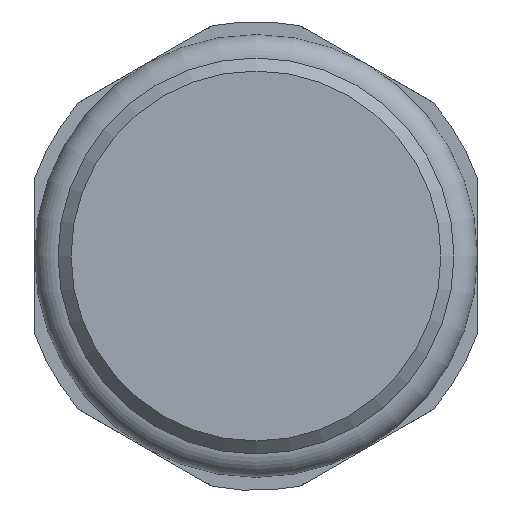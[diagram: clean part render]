
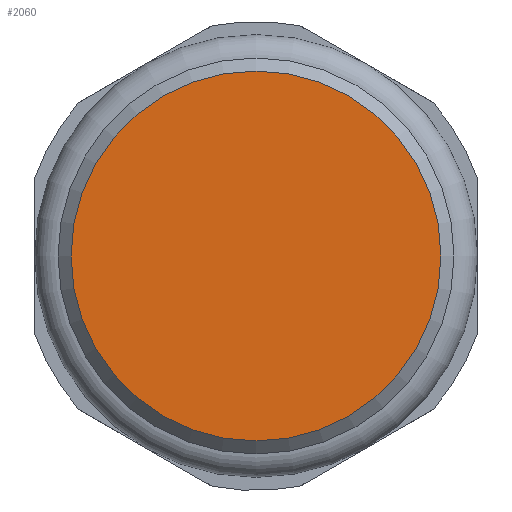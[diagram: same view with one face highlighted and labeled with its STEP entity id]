
A CAD part, front view. The second image highlights one B-rep face of the part: STEP entity #2060.
In plain terms, the highlighted planar face has unit normal (0, -1, 0).
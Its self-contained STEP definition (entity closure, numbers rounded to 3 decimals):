
#2037=CARTESIAN_POINT('',(7.1,0.,0.0));
#2038=VERTEX_POINT('',#2037);
#2039=CARTESIAN_POINT('',(0.0,0.,0.0));
#2040=DIRECTION('',(0.0,-1.0,0.0));
#2041=DIRECTION('',(1.0,0.0,0.0));
#2042=AXIS2_PLACEMENT_3D('',#2039,#2040,#2041);
#2043=CIRCLE('',#2042,7.1);
#2044=EDGE_CURVE('',#2038,#2038,#2043,.T.);
#2052=CARTESIAN_POINT('',(6.5,0.,0.0));
#2053=DIRECTION('',(0.0,-1.0,0.0));
#2054=DIRECTION('',(0.0,0.0,-1.0));
#2055=AXIS2_PLACEMENT_3D('',#2052,#2053,#2054);
#2056=PLANE('',#2055);
#2057=ORIENTED_EDGE('',*,*,#2044,.T.);
#2058=EDGE_LOOP('',(#2057));
#2059=FACE_OUTER_BOUND('',#2058,.T.);
#2060=ADVANCED_FACE('',(#2059),#2056,.T.);
